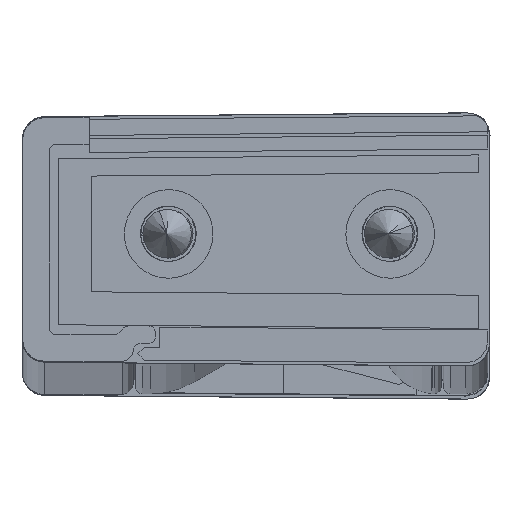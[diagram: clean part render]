
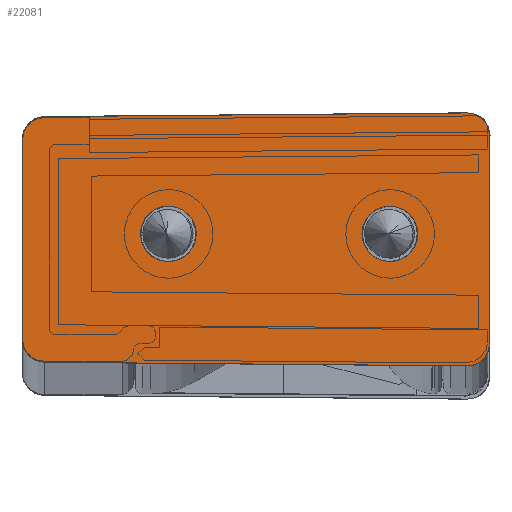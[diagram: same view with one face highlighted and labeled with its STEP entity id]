
A CAD part, top view. The second image highlights one B-rep face of the part: STEP entity #22081.
In plain terms, the highlighted planar face has unit normal (-0.009, 0, 1) as drawn and (0.009, 0, -1) by its records, which use the part's own axes.
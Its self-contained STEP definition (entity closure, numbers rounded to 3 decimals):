
#686 = CARTESIAN_POINT ( 'NONE',  ( 5.283, 4.1, -3.12 ) ) ;
#706 = CARTESIAN_POINT ( 'NONE',  ( 0.526, -0.861, -3.161 ) ) ;
#911 = DIRECTION ( 'NONE',  ( -0.009, 0., 1. ) ) ;
#1375 = DIRECTION ( 'NONE',  ( -0.009, 0., 1. ) ) ;
#1731 = VECTOR ( 'NONE', #32432, 1000. ) ;
#1926 = CIRCLE ( 'NONE', #17168, 1.25 ) ;
#2968 = ORIENTED_EDGE ( 'NONE', *, *, #12516, .F. ) ;
#2971 = VERTEX_POINT ( 'NONE', #18125 ) ;
#3137 = CIRCLE ( 'NONE', #5819, 1.25 ) ;
#3162 = ORIENTED_EDGE ( 'NONE', *, *, #30059, .F. ) ;
#3647 = EDGE_LOOP ( 'NONE', ( #19441, #18154 ) ) ;
#3794 = VERTEX_POINT ( 'NONE', #686 ) ;
#3921 = DIRECTION ( 'NONE',  ( -0.009, 0., 1. ) ) ;
#3937 = CARTESIAN_POINT ( 'NONE',  ( -0.474, 8.561, -3.17 ) ) ;
#4084 = CARTESIAN_POINT ( 'NONE',  ( 19.626, 8.395, -2.995 ) ) ;
#4420 = AXIS2_PLACEMENT_3D ( 'NONE', #4084, #7601, #20301 ) ;
#4482 =( BOUNDED_CURVE ( )  B_SPLINE_CURVE ( 3, ( #29396, #26267, #38922, #4591 ),
 .UNSPECIFIED., .F., .T. ) 
 B_SPLINE_CURVE_WITH_KNOTS ( ( 4, 4 ),
 ( 3.142, 4.704 ),
 .UNSPECIFIED. ) 
 CURVE ( )  GEOMETRIC_REPRESENTATION_ITEM ( )  RATIONAL_B_SPLINE_CURVE ( ( 1., 0.807, 0.807, 1. ) ) 
 REPRESENTATION_ITEM ( '' )  );
#4489 = CARTESIAN_POINT ( 'NONE',  ( 14.033, 4.1, -3.043 ) ) ;
#4591 = CARTESIAN_POINT ( 'NONE',  ( 19.635, 9.395, -2.995 ) ) ;
#5056 = CARTESIAN_POINT ( 'NONE',  ( 12.783, 4.1, -3.054 ) ) ;
#5420 = LINE ( 'NONE', #5610, #23704 ) ;
#5487 = AXIS2_PLACEMENT_3D ( 'NONE', #25112, #21961, #37795 ) ;
#5610 = CARTESIAN_POINT ( 'NONE',  ( 19.635, 9.395, -2.995 ) ) ;
#5819 = AXIS2_PLACEMENT_3D ( 'NONE', #4489, #1375, #6774 ) ;
#6208 = DIRECTION ( 'NONE',  ( -1., 0.009, -0.009 ) ) ;
#6354 = EDGE_CURVE ( 'NONE', #19503, #2971, #18020, .T. ) ;
#6475 = ORIENTED_EDGE ( 'NONE', *, *, #22447, .F. ) ;
#6504 = CARTESIAN_POINT ( 'NONE',  ( 20.626, -0.695, -2.986 ) ) ;
#6774 = DIRECTION ( 'NONE',  ( 1., 0., 0.009 ) ) ;
#6812 = EDGE_CURVE ( 'NONE', #9006, #37866, #12253, .T. ) ;
#7601 = DIRECTION ( 'NONE',  ( -0.009, 0., 1. ) ) ;
#7682 = VERTEX_POINT ( 'NONE', #22105 ) ;
#7757 = CARTESIAN_POINT ( 'NONE',  ( -0.474, -0.861, -3.17 ) ) ;
#8134 = CIRCLE ( 'NONE', #5487, 1.25 ) ;
#8198 = DIRECTION ( 'NONE',  ( 1., 0., 0.009 ) ) ;
#8400 = CARTESIAN_POINT ( 'NONE',  ( 4.033, 4.1, -3.131 ) ) ;
#9006 = VERTEX_POINT ( 'NONE', #18536 ) ;
#11066 = ORIENTED_EDGE ( 'NONE', *, *, #28880, .F. ) ;
#12253 =( BOUNDED_CURVE ( )  B_SPLINE_CURVE ( 3, ( #13478, #16384, #16807, #26006 ),
 .UNSPECIFIED., .F., .F. ) 
 B_SPLINE_CURVE_WITH_KNOTS ( ( 4, 4 ),
 ( 1.58, 3.142 ),
 .UNSPECIFIED. ) 
 CURVE ( )  GEOMETRIC_REPRESENTATION_ITEM ( )  RATIONAL_B_SPLINE_CURVE ( ( 1., 0.807, 0.807, 1. ) ) 
 REPRESENTATION_ITEM ( '' )  );
#12516 = EDGE_CURVE ( 'NONE', #2971, #9006, #18974, .T. ) ;
#13478 = CARTESIAN_POINT ( 'NONE',  ( 19.635, -1.695, -2.995 ) ) ;
#14407 = EDGE_CURVE ( 'NONE', #7682, #3794, #1926, .T. ) ;
#14541 = CIRCLE ( 'NONE', #28499, 1. ) ;
#14764 = VERTEX_POINT ( 'NONE', #39557 ) ;
#15857 = DIRECTION ( 'NONE',  ( 1., 0.009, 0.009 ) ) ;
#16384 = CARTESIAN_POINT ( 'NONE',  ( 20.217, -1.69, -2.989 ) ) ;
#16390 = DIRECTION ( 'NONE',  ( 1., 0., 0.009 ) ) ;
#16553 = FACE_BOUND ( 'NONE', #35678, .T. ) ;
#16763 = PLANE ( 'NONE',  #4420 ) ;
#16807 = CARTESIAN_POINT ( 'NONE',  ( 20.626, -1.276, -2.986 ) ) ;
#16818 = AXIS2_PLACEMENT_3D ( 'NONE', #39247, #19900, #39036 ) ;
#16828 = LINE ( 'NONE', #3937, #1731 ) ;
#17159 = EDGE_LOOP ( 'NONE', ( #11066, #39793, #20876, #2968, #19609, #24647, #3162, #6475 ) ) ;
#17168 = AXIS2_PLACEMENT_3D ( 'NONE', #8400, #36076, #8198 ) ;
#18020 = CIRCLE ( 'NONE', #37299, 1. ) ;
#18125 = CARTESIAN_POINT ( 'NONE',  ( 0.535, -1.861, -3.161 ) ) ;
#18154 = ORIENTED_EDGE ( 'NONE', *, *, #14407, .T. ) ;
#18523 = VERTEX_POINT ( 'NONE', #24896 ) ;
#18536 = CARTESIAN_POINT ( 'NONE',  ( 19.635, -1.695, -2.995 ) ) ;
#18825 = ORIENTED_EDGE ( 'NONE', *, *, #29342, .T. ) ;
#18974 = LINE ( 'NONE', #25455, #36550 ) ;
#19441 = ORIENTED_EDGE ( 'NONE', *, *, #39054, .T. ) ;
#19503 = VERTEX_POINT ( 'NONE', #7757 ) ;
#19609 = ORIENTED_EDGE ( 'NONE', *, *, #6354, .F. ) ;
#19900 = DIRECTION ( 'NONE',  ( -0.009, 0., 1. ) ) ;
#20100 = FACE_BOUND ( 'NONE', #3647, .T. ) ;
#20285 = VERTEX_POINT ( 'NONE', #23384 ) ;
#20289 = CARTESIAN_POINT ( 'NONE',  ( 20.626, -0.695, -2.986 ) ) ;
#20301 = DIRECTION ( 'NONE',  ( 1., 0., 0.009 ) ) ;
#20876 = ORIENTED_EDGE ( 'NONE', *, *, #6812, .F. ) ;
#20998 = EDGE_CURVE ( 'NONE', #41180, #19503, #16828, .T. ) ;
#21773 = ORIENTED_EDGE ( 'NONE', *, *, #34948, .T. ) ;
#21961 = DIRECTION ( 'NONE',  ( -0.009, 0., 1. ) ) ;
#22081 = ADVANCED_FACE ( 'NONE', ( #16553, #20100, #23003 ), #16763, .F. ) ;
#22105 = CARTESIAN_POINT ( 'NONE',  ( 2.783, 4.1, -3.142 ) ) ;
#22447 = EDGE_CURVE ( 'NONE', #14764, #18523, #5420, .T. ) ;
#23003 = FACE_OUTER_BOUND ( 'NONE', #17159, .T. ) ;
#23384 = CARTESIAN_POINT ( 'NONE',  ( 15.283, 4.1, -3.033 ) ) ;
#23704 = VECTOR ( 'NONE', #6208, 1000. ) ;
#24647 = ORIENTED_EDGE ( 'NONE', *, *, #20998, .F. ) ;
#24857 = VERTEX_POINT ( 'NONE', #29555 ) ;
#24896 = CARTESIAN_POINT ( 'NONE',  ( 0.535, 9.561, -3.161 ) ) ;
#25112 = CARTESIAN_POINT ( 'NONE',  ( 4.033, 4.1, -3.131 ) ) ;
#25303 = EDGE_CURVE ( 'NONE', #37866, #24857, #35230, .T. ) ;
#25455 = CARTESIAN_POINT ( 'NONE',  ( 0.535, -1.861, -3.161 ) ) ;
#26006 = CARTESIAN_POINT ( 'NONE',  ( 20.626, -0.695, -2.986 ) ) ;
#26267 = CARTESIAN_POINT ( 'NONE',  ( 20.626, 8.976, -2.986 ) ) ;
#26570 = CARTESIAN_POINT ( 'NONE',  ( -0.474, 8.561, -3.17 ) ) ;
#28499 = AXIS2_PLACEMENT_3D ( 'NONE', #35745, #3921, #16390 ) ;
#28880 = EDGE_CURVE ( 'NONE', #24857, #14764, #4482, .T. ) ;
#29342 = EDGE_CURVE ( 'NONE', #20285, #30769, #3137, .T. ) ;
#29396 = CARTESIAN_POINT ( 'NONE',  ( 20.626, 8.395, -2.986 ) ) ;
#29555 = CARTESIAN_POINT ( 'NONE',  ( 20.626, 8.395, -2.986 ) ) ;
#29653 = DIRECTION ( 'NONE',  ( 1., 0., 0.009 ) ) ;
#30059 = EDGE_CURVE ( 'NONE', #18523, #41180, #14541, .T. ) ;
#30769 = VERTEX_POINT ( 'NONE', #5056 ) ;
#32432 = DIRECTION ( 'NONE',  ( 0., -1., 0. ) ) ;
#34752 = CIRCLE ( 'NONE', #16818, 1.25 ) ;
#34948 = EDGE_CURVE ( 'NONE', #30769, #20285, #34752, .T. ) ;
#35230 = LINE ( 'NONE', #6504, #38510 ) ;
#35428 = DIRECTION ( 'NONE',  ( 0., 1., 0. ) ) ;
#35678 = EDGE_LOOP ( 'NONE', ( #18825, #21773 ) ) ;
#35745 = CARTESIAN_POINT ( 'NONE',  ( 0.526, 8.561, -3.161 ) ) ;
#36076 = DIRECTION ( 'NONE',  ( -0.009, 0., 1. ) ) ;
#36550 = VECTOR ( 'NONE', #15857, 1000. ) ;
#37299 = AXIS2_PLACEMENT_3D ( 'NONE', #706, #911, #29653 ) ;
#37795 = DIRECTION ( 'NONE',  ( 1., 0., 0.009 ) ) ;
#37866 = VERTEX_POINT ( 'NONE', #20289 ) ;
#38510 = VECTOR ( 'NONE', #35428, 1000. ) ;
#38922 = CARTESIAN_POINT ( 'NONE',  ( 20.217, 9.39, -2.989 ) ) ;
#39036 = DIRECTION ( 'NONE',  ( 1., 0., 0.009 ) ) ;
#39054 = EDGE_CURVE ( 'NONE', #3794, #7682, #8134, .T. ) ;
#39247 = CARTESIAN_POINT ( 'NONE',  ( 14.033, 4.1, -3.043 ) ) ;
#39557 = CARTESIAN_POINT ( 'NONE',  ( 19.635, 9.395, -2.995 ) ) ;
#39793 = ORIENTED_EDGE ( 'NONE', *, *, #25303, .F. ) ;
#41180 = VERTEX_POINT ( 'NONE', #26570 ) ;
